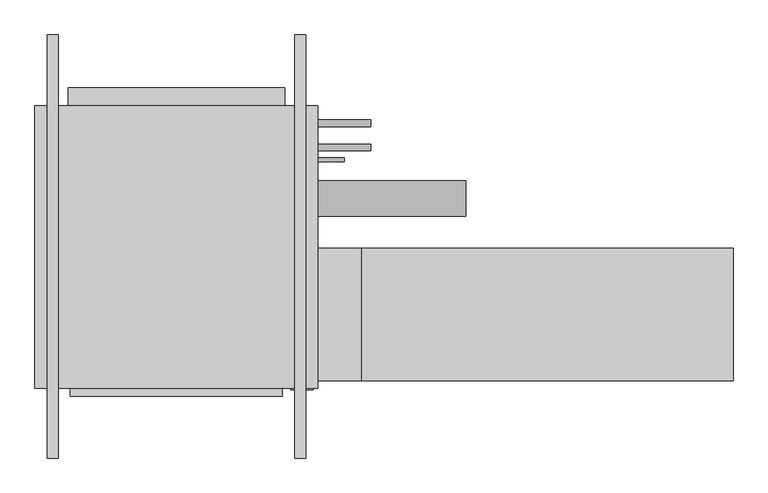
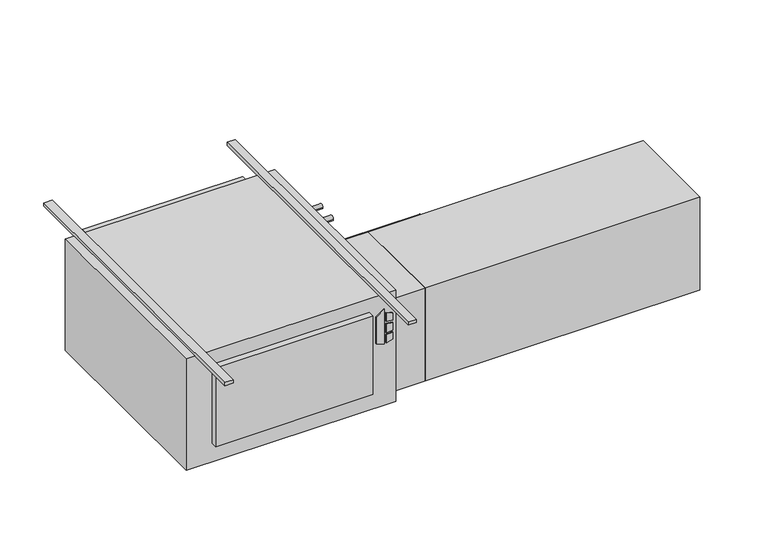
"""IFC4 building model written with IfcOpenShell, lengths in millimetres: proxy geometry."""

from ifc_helpers import new_model, si_unit, point, frame, frame_2d, origin, origin_with_axes, place, context, project, spatial, polyline, circle_curve, trimmed, segment, composite_curve, outline, extrude, source, transform, mapped, element, save


def mechanical_equipment_3d4806d0(model_context):
    return source(origin(), model_context, "Body", "SweptSolid", [
        extrude(outline(polyline([(-193.2519297, 481.0868862), (-203.2, 513.2602728), (-61.0290756, 513.2602728), (-84.0510817, 481.0868862), (-193.2519297, 481.0868862)])), frame((0.0, -647.7, 0.0), z_axis=(0.0, 1.0, 0.0), x_axis=(0.0, 0.0, 1.0)), (0.0, 0.0, 1.0), 3.175),
        extrude(outline(polyline([(-114.2526443, 520.0186058), (-117.4550368, 546.1), (-88.2261958, 546.1), (-80.1617807, 520.0186058), (-114.2526443, 520.0186058)])), frame((0.0, -647.7, 0.0), z_axis=(0.0, 1.0, 0.0), x_axis=(0.0, 0.0, 1.0)), (0.0, 0.0, 1.0), 3.175),
        extrude(outline(polyline([(-166.1161712, 546.1), (-169.7816721, 520.0186058), (-203.2, 520.0186058), (-194.5657628, 546.1), (-166.1161712, 546.1)])), frame((0.0, -647.7, 0.0), z_axis=(0.0, 1.0, 0.0), x_axis=(0.0, 0.0, 1.0)), (0.0, 0.0, 1.0), 3.175),
        extrude(outline(polyline([(-126.8010097, 546.1), (-124.5191834, 520.0186058), (-160.4567319, 520.0186058), (-157.7154669, 546.1), (-126.8010097, 546.1)])), frame((0.0, -647.7, 0.0), z_axis=(0.0, 1.0, 0.0), x_axis=(0.0, 0.0, 1.0)), (0.0, 0.0, 1.0), 3.175),
        extrude(outline(polyline([(457.2, -666.877), (-152.4, -666.877), (-152.4, -644.525), (457.2, -644.525), (457.2, -666.877)])), frame((0.0, 0.0, -381.0), z_axis=(0.0, 0.0, 1.0), x_axis=(1.0, 0.0, 0.0)), (0.0, 0.0, 1.0), 323.85),
        extrude(outline(polyline([(1752.6, -241.3), (1752.6, -622.3), (685.8, -622.3), (685.8, -241.3), (1752.6, -241.3)])), frame((0.0, 0.0, -431.8), z_axis=(0.0, 0.0, 1.0), x_axis=(1.0, 0.0, 0.0)), (0.0, 0.0, 1.0), 381.0),
        extrude(outline(polyline([(685.8, -241.3), (685.8, -622.3), (558.8, -622.3), (558.8, -241.3), (685.8, -241.3)])), frame((0.0, 0.0, -431.8), z_axis=(0.0, 0.0, 1.0), x_axis=(1.0, 0.0, 0.0)), (0.0, 0.0, 1.0), 381.0),
        extrude(outline(composite_curve([segment(trimmed(circle_curve(frame_2d((117.475, -171.45)), 9.525), [point((127.0, -171.45))], [point((107.95, -171.45))], False, "CARTESIAN"), True, "CONTINUOUS"), segment(trimmed(circle_curve(frame_2d((117.475, -171.45)), 9.525), [point((107.95, -171.45))], [point((127.0, -171.45))], False, "CARTESIAN"), True, "CONTINUOUS")], self_intersect=False)), frame((558.8, 0.0, 0.0), z_axis=(1.0, 0.0, 0.0), x_axis=(0.0, 1.0, 0.0)), (0.0, 0.0, 1.0), 152.4),
        extrude(outline(composite_curve([segment(trimmed(circle_curve(frame_2d((47.625, -177.8)), 9.525), [point((57.15, -177.8))], [point((38.1, -177.8))], False, "CARTESIAN"), True, "CONTINUOUS"), segment(trimmed(circle_curve(frame_2d((47.625, -177.8)), 9.525), [point((38.1, -177.8))], [point((57.15, -177.8))], False, "CARTESIAN"), True, "CONTINUOUS")], self_intersect=False)), frame((558.8, 0.0, 0.0), z_axis=(1.0, 0.0, 0.0), x_axis=(0.0, 1.0, 0.0)), (0.0, 0.0, 1.0), 152.4),
        extrude(outline(composite_curve([segment(trimmed(circle_curve(frame_2d((-98.4896516, -228.6360165)), 50.8), [point((-47.6896516, -228.6360165))], [point((-149.2896516, -228.6360165))], False, "CARTESIAN"), True, "CONTINUOUS"), segment(trimmed(circle_curve(frame_2d((-98.4896516, -228.6360165)), 50.8), [point((-149.2896516, -228.6360165))], [point((-47.6896516, -228.6360165))], False, "CARTESIAN"), True, "CONTINUOUS")], self_intersect=False)), frame((558.8, 0.0, 0.0), z_axis=(1.0, 0.0, 0.0), x_axis=(0.0, 1.0, 0.0)), (0.0, 0.0, 1.0), 425.45),
        extrude(outline(composite_curve([segment(trimmed(circle_curve(frame_2d((12.7, -409.575)), 6.35), [point((19.05, -409.575))], [point((6.35, -409.575))], False, "CARTESIAN"), True, "CONTINUOUS"), segment(trimmed(circle_curve(frame_2d((12.7, -409.575)), 6.35), [point((6.35, -409.575))], [point((19.05, -409.575))], False, "CARTESIAN"), True, "CONTINUOUS")], self_intersect=False)), frame((558.8, 0.0, 0.0), z_axis=(1.0, 0.0, 0.0), x_axis=(0.0, 1.0, 0.0)), (0.0, 0.0, 1.0), 76.2),
        extrude(outline(polyline([(558.8, 168.275), (558.8, -644.525), (-254.0, -644.525), (-254.0, 168.275), (558.8, 168.275)])), frame((0.0, 0.0, -457.2), z_axis=(0.0, 0.0, 1.0), x_axis=(1.0, 0.0, 0.0)), (0.0, 0.0, 1.0), 457.2),
        extrude(outline(polyline([(-158.75, 219.075), (463.55, 219.075), (463.55, 168.275), (-158.75, 168.275), (-158.75, 219.075)])), frame((0.0, 0.0, -381.0), z_axis=(0.0, 0.0, 1.0), x_axis=(1.0, 0.0, 0.0)), (0.0, 0.0, 1.0), 355.6),
        extrude(outline(polyline([(-187.325, 371.475), (-187.325, -844.677), (-219.075, -844.677), (-219.075, 371.475), (-187.325, 371.475)])), origin_with_axes(), (0.0, 0.0, 1.0), 12.7),
        extrude(outline(polyline([(523.875, 371.475), (523.875, -844.677), (492.125, -844.677), (492.125, 371.475), (523.875, 371.475)])), origin_with_axes(), (0.0, 0.0, 1.0), 12.7),
    ])


if __name__ == "__main__":
    model = new_model("IFC4")
    model_context = context("Model", 3, world=origin())
    ifc_project = project(units=[si_unit("LENGTHUNIT", "METRE", prefix="MILLI")], contexts=[model_context])
    site = spatial("IfcSite", under=ifc_project)
    building = spatial("IfcBuilding", under=site)
    placement = place(None, origin())
    mechanical_equipment_shape = mechanical_equipment_3d4806d0(model_context)
    element("IfcBuildingElementProxy", 1, Name="High_Capacity_Horizontal_Cabinet_Fan_Coil_Unit_-_HTY_-_IEC_-_2-Pipe_RH Side_2022 : Size 10 - 115v/60Hz/1Ph - 4/0 Coil - 4\" AirIn", ObjectType="High_Capacity_Horizontal_Cabinet_Fan_Coil_Unit_-_HTY_-_IEC_-_2-Pipe_RH Side_2022 : Size 10 - 115v/60Hz/1Ph - 4/0 Coil - 4\" AirIn", at=placement, inside=building, context=model_context, shape_type="MappedRepresentation", body=[
        mapped(mechanical_equipment_shape, transform((0.0, 0.0, 0.0), x_axis=(1.0, 0.0, 0.0), y_axis=(0.0, 1.0, 0.0), z_axis=(0.0, 0.0, 1.0))),
    ])
    save(model, "model.ifc")
